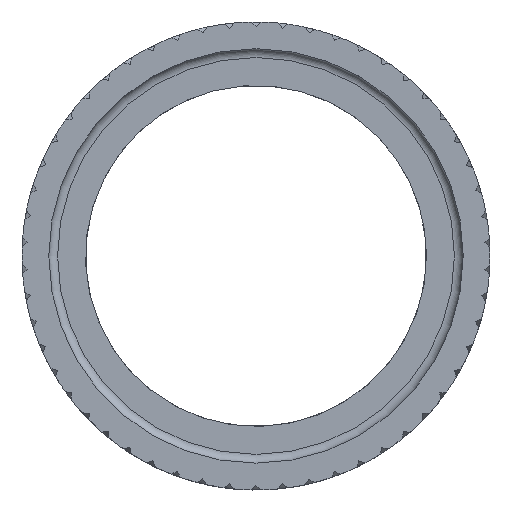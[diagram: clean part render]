
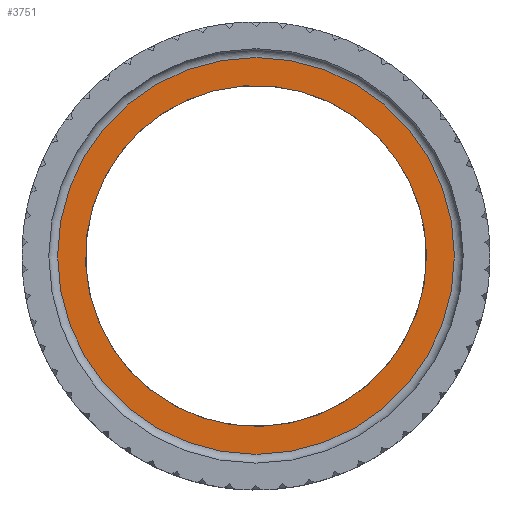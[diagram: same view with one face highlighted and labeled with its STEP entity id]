
A CAD part, top view. The second image highlights one B-rep face of the part: STEP entity #3751.
In plain terms, the highlighted planar face has unit normal (0, 0, 1).
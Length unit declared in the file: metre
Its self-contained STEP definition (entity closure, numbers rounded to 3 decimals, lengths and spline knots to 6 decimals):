
#735=ORIENTED_EDGE('',*,*,#2023,.T.);
#736=ORIENTED_EDGE('',*,*,#2024,.T.);
#2023=EDGE_CURVE('',#2667,#2667,#3099,.F.);
#2024=EDGE_CURVE('',#2668,#2668,#3100,.T.);
#2667=VERTEX_POINT('',#4624);
#2668=VERTEX_POINT('',#4626);
#3099=CIRCLE('',#3987,0.03375);
#3100=CIRCLE('',#3988,0.029);
#3217=EDGE_LOOP('',(#735));
#3218=EDGE_LOOP('',(#736));
#3449=FACE_BOUND('',#3217,.T.);
#3450=FACE_BOUND('',#3218,.T.);
#3681=PLANE('',#3986);
#3751=ADVANCED_FACE('',(#3449,#3450),#3681,.F.);
#3986=AXIS2_PLACEMENT_3D('',#4622,#4184,#4185);
#3987=AXIS2_PLACEMENT_3D('',#4623,#4186,#4187);
#3988=AXIS2_PLACEMENT_3D('',#4625,#4188,#4189);
#4184=DIRECTION('',(0.,0.,-1.));
#4185=DIRECTION('',(0.819,0.574,0.));
#4186=DIRECTION('',(0.,0.,-1.));
#4187=DIRECTION('',(1.,0.,0.));
#4188=DIRECTION('',(0.,0.,-1.));
#4189=DIRECTION('',(1.,0.,0.));
#4622=CARTESIAN_POINT('',(0.,0.,0.0728));
#4623=CARTESIAN_POINT('',(0.,0.,0.0728));
#4624=CARTESIAN_POINT('',(0.03375,0.,0.0728));
#4625=CARTESIAN_POINT('',(0.,0.,0.0728));
#4626=CARTESIAN_POINT('',(0.029,0.,0.0728));
